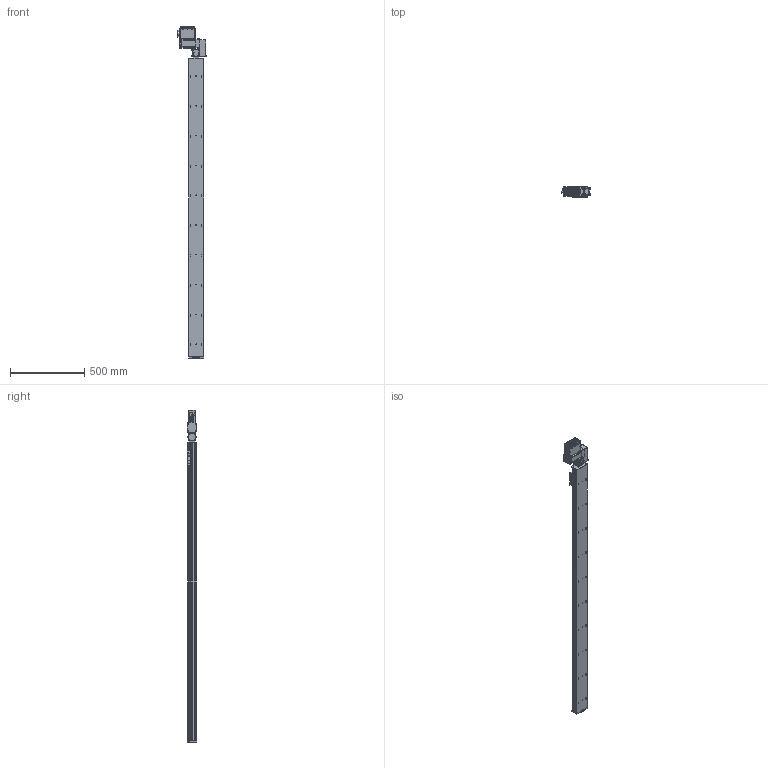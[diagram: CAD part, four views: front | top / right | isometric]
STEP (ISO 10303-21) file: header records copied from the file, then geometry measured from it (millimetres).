
FILE_DESCRIPTION (( 'STEP AP203' ), '1' );
FILE_NAME ('S10 TBN RH S2000.STEP', '2012-06-18T10:27:53', ( 'Conseil Régional Haute-Normandie' ), ( 'Conseil Régional Haute-Normandie' ), 'SwSTEP 2.0', 'SolidWorks 2010', '' );
FILE_SCHEMA (( 'CONFIG_CONTROL_DESIGN' ));
Length unit declared in the file: millimetre
Products named in the file (30): cache t皻e axe_Default; Assem1_7; BU41 Carte Alimentation P05_3; T_X2_00F4_X0_le contre le moteur_5; T_X2_00F4_X0_le fond_3; Connecteur rond D10 3cts_5; Connecteur rond D12 4cts_5; T_X2_00F4_X0_le lat_X2_00E9_X0_rale_5; Vis TF 3 torkx_1_1; Vis TF 3 torkx; axe 2000; S10 TBN RH S2000; embout; palette tbn; cache t皻e_Default; plaque de bout s10_Default; Plaque racord_Default; Copie de renvoi LH_Default^S10 TBN RH S2000; Colonnette_3; BU45 Carte d''axe A11_5; Moteur 60BLDC90A_3; Couvercle_3; Sub D 9cts 90_X2_00B_X0__3; Radiateur profil_X2_00E9_X0_ 100x25_3; Colonnette ronde_3; T_X2_00F4_X0_le Arri_X2_00E8_X0_re_5; Cvis M5 L30_Default; vis M5 L12_Default; Vis M5 L16-2_Default_1; vis M5 L5_Default
Assembly tree (69 placements, depth 3):
  S10 TBN RH S2000
    cache t皻e_Default  x2
    vis M5 L5_Default  x4
    Cvis M5 L30_Default  x2
    Vis TF 3 torkx  x7
    Vis M5 L16-2_Default_1  x4
    vis M5 L12_Default  x4
    embout
    palette tbn
    Assem1_7
      Radiateur profil_X2_00E9_X0_ 100x25_3
      Vis TF 3 torkx_1_1  x21
      Couvercle_3
      BU41 Carte Alimentation P05_3
      Connecteur rond D10 3cts_5  x2
      T_X2_00F4_X0_le fond_3
      Connecteur rond D12 4cts_5
      Colonnette_3  x2
      T_X2_00F4_X0_le Arri_X2_00E8_X0_re_5
      T_X2_00F4_X0_le contre le moteur_5
      Colonnette ronde_3
      Moteur 60BLDC90A_3
      T_X2_00F4_X0_le lat_X2_00E9_X0_rale_5  x2
      BU45 Carte d''axe A11_5
      Sub D 9cts 90_X2_00B_X0__3
    plaque de bout s10_Default
    Copie de renvoi LH_Default^S10 TBN RH S2000
    axe 2000
    cache t皻e axe_Default
    Plaque racord_Default
Bounding box: 189.8 x 66.75 x 2228.5 mm (x, y, z)
Volume: 11218816.4 mm3; surface area: 1258696 mm2
Topology: 68 solids, 68 shells, 2550 faces, 6325 edges, 4083 vertices
Faces by surface type: plane 1220, cylinder 1091, cone 196, bspline 40, torus 3
Entity records: 50255 total; most frequent: CARTESIAN_POINT 8995, DIRECTION 8126, ORIENTED_EDGE 7354, EDGE_CURVE 3677, AXIS2_PLACEMENT_3D 3025, VERTEX_POINT 2399, VECTOR 2076, LINE 2076
